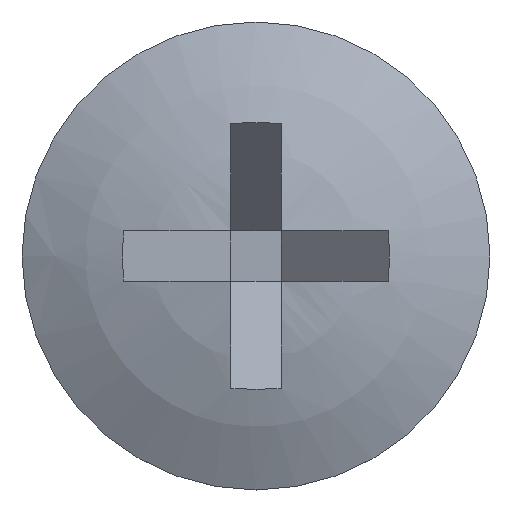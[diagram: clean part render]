
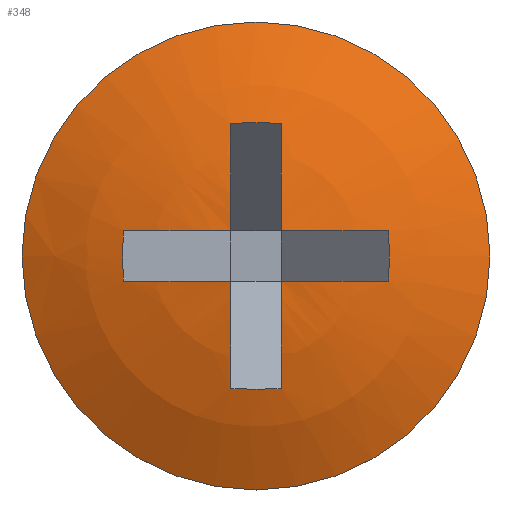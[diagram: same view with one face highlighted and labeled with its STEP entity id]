
A CAD part, top view. The second image highlights one B-rep face of the part: STEP entity #348.
In plain terms, the highlighted spherical face has radius 12.101 mm.
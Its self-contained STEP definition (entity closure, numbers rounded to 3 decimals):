
#21=SPHERICAL_SURFACE('',#392,12.101);
#25=FACE_OUTER_BOUND('',#46,.T.);
#46=EDGE_LOOP('',(#235,#236,#237,#238,#239,#240,#241,#242,#243,#244,#245,
#246,#247,#248,#249,#250,#251,#252));
#106=CIRCLE('',#387,10.522);
#107=CIRCLE('',#389,12.086);
#108=CIRCLE('',#391,12.086);
#109=CIRCLE('',#393,12.086);
#110=CIRCLE('',#394,10.522);
#111=CIRCLE('',#395,12.101);
#112=CIRCLE('',#396,5.65);
#113=CIRCLE('',#397,5.65);
#114=CIRCLE('',#398,5.65);
#115=CIRCLE('',#399,10.522);
#116=CIRCLE('',#400,12.086);
#117=CIRCLE('',#401,12.086);
#118=CIRCLE('',#402,10.522);
#119=CIRCLE('',#403,12.086);
#120=CIRCLE('',#404,12.086);
#121=CIRCLE('',#405,10.522);
#122=CIRCLE('',#406,12.086);
#138=VERTEX_POINT('',#570);
#139=VERTEX_POINT('',#571);
#142=VERTEX_POINT('',#579);
#143=VERTEX_POINT('',#583);
#144=VERTEX_POINT('',#587);
#145=VERTEX_POINT('',#589);
#146=VERTEX_POINT('',#591);
#147=VERTEX_POINT('',#593);
#148=VERTEX_POINT('',#595);
#149=VERTEX_POINT('',#598);
#150=VERTEX_POINT('',#600);
#151=VERTEX_POINT('',#602);
#152=VERTEX_POINT('',#604);
#153=VERTEX_POINT('',#606);
#154=VERTEX_POINT('',#608);
#155=VERTEX_POINT('',#610);
#172=EDGE_CURVE('',#138,#139,#106,.T.);
#176=EDGE_CURVE('',#139,#142,#107,.T.);
#178=EDGE_CURVE('',#143,#138,#108,.T.);
#180=EDGE_CURVE('',#142,#144,#109,.T.);
#181=EDGE_CURVE('',#144,#145,#110,.T.);
#182=EDGE_CURVE('',#145,#146,#111,.T.);
#183=EDGE_CURVE('',#146,#147,#112,.T.);
#184=EDGE_CURVE('',#147,#148,#113,.T.);
#185=EDGE_CURVE('',#148,#146,#114,.T.);
#186=EDGE_CURVE('',#145,#149,#115,.T.);
#187=EDGE_CURVE('',#149,#150,#116,.T.);
#188=EDGE_CURVE('',#150,#151,#117,.T.);
#189=EDGE_CURVE('',#151,#152,#118,.T.);
#190=EDGE_CURVE('',#152,#153,#119,.T.);
#191=EDGE_CURVE('',#153,#154,#120,.T.);
#192=EDGE_CURVE('',#154,#155,#121,.T.);
#193=EDGE_CURVE('',#155,#143,#122,.T.);
#235=ORIENTED_EDGE('',*,*,#178,.T.);
#236=ORIENTED_EDGE('',*,*,#172,.T.);
#237=ORIENTED_EDGE('',*,*,#176,.T.);
#238=ORIENTED_EDGE('',*,*,#180,.T.);
#239=ORIENTED_EDGE('',*,*,#181,.T.);
#240=ORIENTED_EDGE('',*,*,#182,.T.);
#241=ORIENTED_EDGE('',*,*,#183,.T.);
#242=ORIENTED_EDGE('',*,*,#184,.T.);
#243=ORIENTED_EDGE('',*,*,#185,.T.);
#244=ORIENTED_EDGE('',*,*,#182,.F.);
#245=ORIENTED_EDGE('',*,*,#186,.T.);
#246=ORIENTED_EDGE('',*,*,#187,.T.);
#247=ORIENTED_EDGE('',*,*,#188,.T.);
#248=ORIENTED_EDGE('',*,*,#189,.T.);
#249=ORIENTED_EDGE('',*,*,#190,.T.);
#250=ORIENTED_EDGE('',*,*,#191,.T.);
#251=ORIENTED_EDGE('',*,*,#192,.T.);
#252=ORIENTED_EDGE('',*,*,#193,.T.);
#348=ADVANCED_FACE('',(#25),#21,.T.);
#387=AXIS2_PLACEMENT_3D('',#572,#443,#444);
#389=AXIS2_PLACEMENT_3D('',#580,#450,#451);
#391=AXIS2_PLACEMENT_3D('',#584,#455,#456);
#392=AXIS2_PLACEMENT_3D('',#586,#458,#459);
#393=AXIS2_PLACEMENT_3D('',#588,#460,#461);
#394=AXIS2_PLACEMENT_3D('',#590,#462,#463);
#395=AXIS2_PLACEMENT_3D('',#592,#464,#465);
#396=AXIS2_PLACEMENT_3D('',#594,#466,#467);
#397=AXIS2_PLACEMENT_3D('',#596,#468,#469);
#398=AXIS2_PLACEMENT_3D('',#597,#470,#471);
#399=AXIS2_PLACEMENT_3D('',#599,#472,#473);
#400=AXIS2_PLACEMENT_3D('',#601,#474,#475);
#401=AXIS2_PLACEMENT_3D('',#603,#476,#477);
#402=AXIS2_PLACEMENT_3D('',#605,#478,#479);
#403=AXIS2_PLACEMENT_3D('',#607,#480,#481);
#404=AXIS2_PLACEMENT_3D('',#609,#482,#483);
#405=AXIS2_PLACEMENT_3D('',#611,#484,#485);
#406=AXIS2_PLACEMENT_3D('',#612,#486,#487);
#443=DIRECTION('center_axis',(0.,-0.707,
-0.707));
#444=DIRECTION('ref_axis',(0.,-0.707,0.707));
#450=DIRECTION('center_axis',(-1.,0.,0.));
#451=DIRECTION('ref_axis',(0.,0.,-1.));
#455=DIRECTION('center_axis',(1.,0.,0.));
#456=DIRECTION('ref_axis',(0.,0.,1.));
#458=DIRECTION('center_axis',(0.,0.,1.));
#459=DIRECTION('ref_axis',(1.,0.,0.));
#460=DIRECTION('center_axis',(0.,-1.,0.));
#461=DIRECTION('ref_axis',(0.,0.,1.));
#462=DIRECTION('center_axis',(-0.707,0.,-0.707));
#463=DIRECTION('ref_axis',(0.,-1.,0.));
#464=DIRECTION('center_axis',(0.,-1.,0.));
#465=DIRECTION('ref_axis',(-1.,0.,0.));
#466=DIRECTION('center_axis',(0.,0.,1.));
#467=DIRECTION('ref_axis',(0.,1.,0.));
#468=DIRECTION('center_axis',(0.,0.,1.));
#469=DIRECTION('ref_axis',(0.,1.,0.));
#470=DIRECTION('center_axis',(0.,0.,1.));
#471=DIRECTION('ref_axis',(0.,1.,0.));
#472=DIRECTION('center_axis',(-0.707,0.,-0.707));
#473=DIRECTION('ref_axis',(0.,-1.,0.));
#474=DIRECTION('center_axis',(0.,1.,0.));
#475=DIRECTION('ref_axis',(0.,0.,-1.));
#476=DIRECTION('center_axis',(-1.,0.,0.));
#477=DIRECTION('ref_axis',(0.,0.,-1.));
#478=DIRECTION('center_axis',(0.,0.707,-0.707));
#479=DIRECTION('ref_axis',(0.,-0.707,-0.707));
#480=DIRECTION('center_axis',(1.,0.,0.));
#481=DIRECTION('ref_axis',(0.,0.,1.));
#482=DIRECTION('center_axis',(0.,1.,0.));
#483=DIRECTION('ref_axis',(0.,0.,-1.));
#484=DIRECTION('center_axis',(0.707,0.,-0.707));
#485=DIRECTION('ref_axis',(0.,-1.,0.));
#486=DIRECTION('center_axis',(0.,-1.,0.));
#487=DIRECTION('ref_axis',(0.,0.,1.));
#570=CARTESIAN_POINT('',(0.608,-3.203,-0.447));
#571=CARTESIAN_POINT('',(-0.608,-3.203,-0.447));
#572=CARTESIAN_POINT('Origin',(0.,4.225,-7.875));
#579=CARTESIAN_POINT('',(-0.608,-0.608,-0.031));
#580=CARTESIAN_POINT('Origin',(-0.608,0.,
-12.101));
#583=CARTESIAN_POINT('',(0.608,-0.608,-0.031));
#584=CARTESIAN_POINT('Origin',(0.608,0.,-12.101));
#586=CARTESIAN_POINT('Origin',(0.,0.,-12.101));
#587=CARTESIAN_POINT('',(-3.203,-0.608,-0.447));
#588=CARTESIAN_POINT('Origin',(0.,-0.608,-12.101));
#589=CARTESIAN_POINT('',(-3.215,0.,-0.435));
#590=CARTESIAN_POINT('Origin',(4.225,0.,-7.875));
#591=CARTESIAN_POINT('',(-5.65,0.,-1.4));
#592=CARTESIAN_POINT('Origin',(0.,0.,-12.101));
#593=CARTESIAN_POINT('',(0.,-5.65,-1.4));
#594=CARTESIAN_POINT('Origin',(0.,0.,-1.4));
#595=CARTESIAN_POINT('',(0.,5.65,-1.4));
#596=CARTESIAN_POINT('Origin',(0.,0.,-1.4));
#597=CARTESIAN_POINT('Origin',(0.,0.,-1.4));
#598=CARTESIAN_POINT('',(-3.203,0.608,-0.447));
#599=CARTESIAN_POINT('Origin',(4.225,0.,-7.875));
#600=CARTESIAN_POINT('',(-0.608,0.608,-0.031));
#601=CARTESIAN_POINT('Origin',(0.,0.608,-12.101));
#602=CARTESIAN_POINT('',(-0.608,3.203,-0.447));
#603=CARTESIAN_POINT('Origin',(-0.608,0.,
-12.101));
#604=CARTESIAN_POINT('',(0.608,3.203,-0.447));
#605=CARTESIAN_POINT('Origin',(0.,-4.225,-7.875));
#606=CARTESIAN_POINT('',(0.608,0.608,-0.031));
#607=CARTESIAN_POINT('Origin',(0.608,0.,
-12.101));
#608=CARTESIAN_POINT('',(3.203,0.608,-0.447));
#609=CARTESIAN_POINT('Origin',(0.,0.608,-12.101));
#610=CARTESIAN_POINT('',(3.203,-0.608,-0.447));
#611=CARTESIAN_POINT('Origin',(-4.225,0.,
-7.875));
#612=CARTESIAN_POINT('Origin',(0.,-0.608,-12.101));
